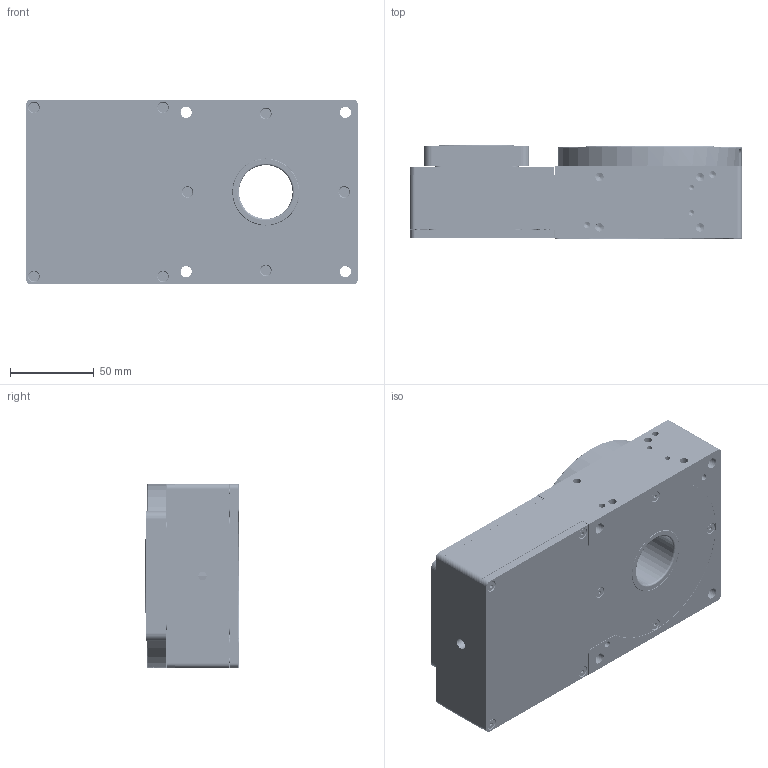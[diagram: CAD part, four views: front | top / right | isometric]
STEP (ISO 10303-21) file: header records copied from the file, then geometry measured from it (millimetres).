
FILE_DESCRIPTION (( 'STEP AP203' ), '1' );
FILE_NAME ('MDT360110-QN-MO-B.STEP', '2022-04-19T14:17:21', ( '' ), ( '' ), 'SwSTEP 2.0', 'SolidWorks 2019', '' );
FILE_SCHEMA (( 'CONFIG_CONTROL_DESIGN' ));
Products named in the file (1): MDT360110-QN-MO-B
Bounding box: 198 x 55.5 x 110 mm (x, y, z)
Volume: 826642 mm3; surface area: 362016.1 mm2
Topology: 114 solids, 114 shells, 4282 faces, 10384 edges, 6489 vertices
Faces by surface type: cylinder 2002, plane 1263, cone 679, torus 336, bspline 2
Entity records: 127796 total; most frequent: CARTESIAN_POINT 24594, DIRECTION 23251, ORIENTED_EDGE 20480, EDGE_CURVE 10240, AXIS2_PLACEMENT_3D 9333, VERTEX_POINT 6489, CIRCLE 5052, EDGE_LOOP 4859
